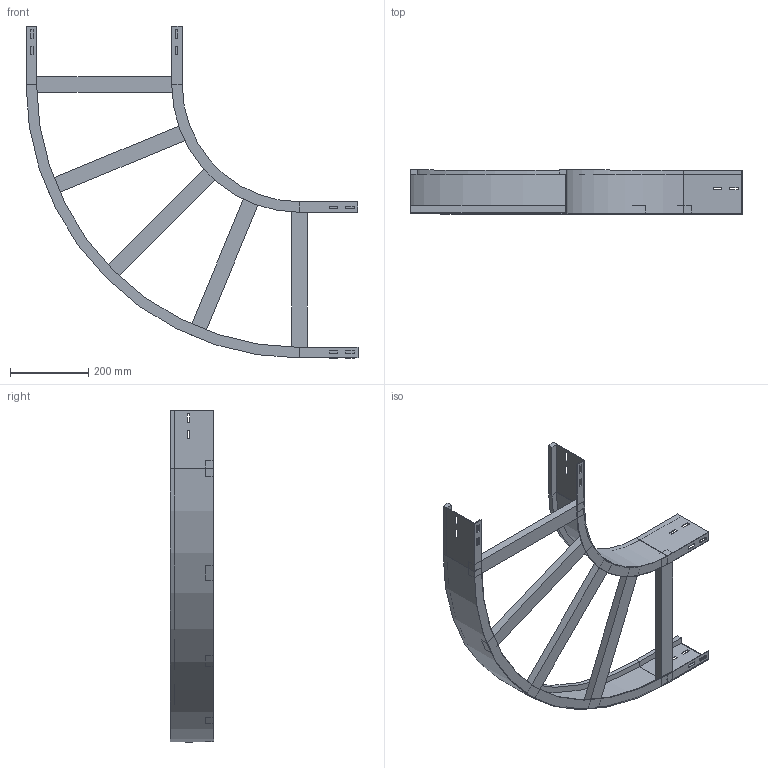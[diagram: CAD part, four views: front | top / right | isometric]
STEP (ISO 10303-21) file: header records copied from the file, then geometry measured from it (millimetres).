
FILE_DESCRIPTION (( 'STEP AP214' ), '1' );
FILE_NAME ('A2_10B3J400.step', '2025-02-21T15:24:39', ( '' ), ( '' ), 'SwSTEP 2.0', 'SolidWorks 2023', '' );
FILE_SCHEMA (( 'AUTOMOTIVE_DESIGN' ));
Length unit declared in the file: millimetre
Products named in the file (4): A2_LONGH.INTERNO 90°_H112.5_R300; A2_10B3J400; TRAVERSINO_400; A2_LONGH.ESTERNO 90°_H112.5_R300+400
Assembly tree (7 placements, depth 2):
  A2_10B3J400
    A2_LONGH.INTERNO 90°_H112.5_R300
    A2_LONGH.ESTERNO 90°_H112.5_R300+400
    TRAVERSINO_400  x5
Bounding box: 850 x 112.5 x 850 mm (x, y, z)
Volume: 2612633.9 mm3; surface area: 921593.7 mm2
Topology: 7 solids, 7 shells, 146 faces, 364 edges, 232 vertices
Faces by surface type: plane 138, cylinder 8
Entity records: 3837 total; most frequent: CARTESIAN_POINT 648, ORIENTED_EDGE 632, DIRECTION 596, EDGE_CURVE 316, VECTOR 300, LINE 300, VERTEX_POINT 200, EDGE_LOOP 154
